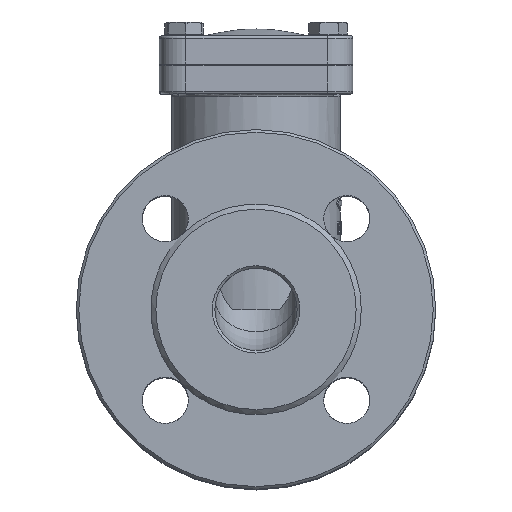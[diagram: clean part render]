
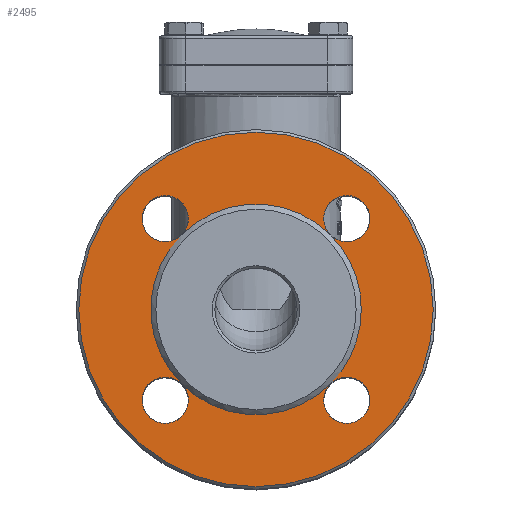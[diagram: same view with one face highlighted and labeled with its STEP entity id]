
A CAD part, top view. The second image highlights one B-rep face of the part: STEP entity #2495.
In plain terms, the highlighted planar face has unit normal (0, 0, 1).
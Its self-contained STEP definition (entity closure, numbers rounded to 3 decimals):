
#2495=ADVANCED_FACE('',(#7172,#7174,#7176,#7178,#7180,#7182),#7184,.T.);
#7172=FACE_BOUND('',#7173,.T.);
#7173=EDGE_LOOP('',(#9032));
#7174=FACE_BOUND('',#7175,.T.);
#7175=EDGE_LOOP('',(#9033,#9034));
#7176=FACE_BOUND('',#7177,.T.);
#7177=EDGE_LOOP('',(#9035,#9036,#9037,#9038));
#7178=FACE_BOUND('',#7179,.T.);
#7179=EDGE_LOOP('',(#9039,#9040));
#7180=FACE_BOUND('',#7181,.T.);
#7181=EDGE_LOOP('',(#9041,#9042));
#7182=FACE_BOUND('',#7183,.T.);
#7183=EDGE_LOOP('',(#9043));
#7184=PLANE('',#7185);
#7185=AXIS2_PLACEMENT_3D('',#7186,#7187,#7188);
#7186=CARTESIAN_POINT('',(0.,0.,87.948));
#7187=DIRECTION('',(0.,0.,1.));
#7188=DIRECTION('',(1.,0.,0.));
#9032=ORIENTED_EDGE('',*,*,#9944,.F.);
#9033=ORIENTED_EDGE('',*,*,#9939,.T.);
#9034=ORIENTED_EDGE('',*,*,#9940,.T.);
#9035=ORIENTED_EDGE('',*,*,#9945,.F.);
#9036=ORIENTED_EDGE('',*,*,#9946,.F.);
#9037=ORIENTED_EDGE('',*,*,#9947,.F.);
#9038=ORIENTED_EDGE('',*,*,#9948,.F.);
#9039=ORIENTED_EDGE('',*,*,#9937,.T.);
#9040=ORIENTED_EDGE('',*,*,#9938,.T.);
#9041=ORIENTED_EDGE('',*,*,#9935,.T.);
#9042=ORIENTED_EDGE('',*,*,#9936,.T.);
#9043=ORIENTED_EDGE('',*,*,#9934,.T.);
#9934=EDGE_CURVE('',#11355,#11355,#11356,.T.);
#9935=EDGE_CURVE('',#11357,#11358,#11359,.T.);
#9936=EDGE_CURVE('',#11358,#11357,#11360,.T.);
#9937=EDGE_CURVE('',#11361,#11362,#11363,.T.);
#9938=EDGE_CURVE('',#11362,#11361,#11364,.T.);
#9939=EDGE_CURVE('',#11365,#11366,#11367,.T.);
#9940=EDGE_CURVE('',#11366,#11365,#11368,.T.);
#9944=EDGE_CURVE('',#11375,#11375,#11376,.T.);
#9945=EDGE_CURVE('',#11357,#11361,#11377,.T.);
#9946=EDGE_CURVE('',#11378,#11357,#11379,.T.);
#9947=EDGE_CURVE('',#11365,#11378,#11380,.T.);
#9948=EDGE_CURVE('',#11361,#11365,#11381,.T.);
#11355=VERTEX_POINT('',#21068);
#11356=CIRCLE('',#21069,9.);
#11357=VERTEX_POINT('',#21073);
#11358=VERTEX_POINT('',#21074);
#11359=CIRCLE('',#21075,9.);
#11360=CIRCLE('',#21079,9.);
#11361=VERTEX_POINT('',#21083);
#11362=VERTEX_POINT('',#21084);
#11363=CIRCLE('',#21085,9.);
#11364=CIRCLE('',#21089,9.);
#11365=VERTEX_POINT('',#21093);
#11366=VERTEX_POINT('',#21094);
#11367=CIRCLE('',#21095,9.);
#11368=CIRCLE('',#21099,9.);
#11375=VERTEX_POINT('',#21118);
#11376=CIRCLE('',#21119,69.);
#11377=CIRCLE('',#21123,41.);
#11378=VERTEX_POINT('',#21127);
#11379=CIRCLE('',#21128,41.);
#11380=CIRCLE('',#21132,41.);
#11381=CIRCLE('',#21136,41.);
#21068=CARTESIAN_POINT('',(44.355,35.355,87.948));
#21069=AXIS2_PLACEMENT_3D('',#21070,#21071,#21072);
#21070=CARTESIAN_POINT('',(35.355,35.355,87.948));
#21071=DIRECTION('',(0.,0.,-1.));
#21072=DIRECTION('',(-0.707,-0.707,0.));
#21073=CARTESIAN_POINT('',(-28.991,28.991,87.948));
#21074=CARTESIAN_POINT('',(-26.355,35.355,87.948));
#21075=AXIS2_PLACEMENT_3D('',#21076,#21077,#21078);
#21076=CARTESIAN_POINT('',(-35.355,35.355,87.948));
#21077=DIRECTION('',(0.,0.,-1.));
#21078=DIRECTION('',(0.707,-0.707,0.));
#21079=AXIS2_PLACEMENT_3D('',#21080,#21081,#21082);
#21080=CARTESIAN_POINT('',(-35.355,35.355,87.948));
#21081=DIRECTION('',(0.,0.,-1.));
#21082=DIRECTION('',(1.,0.,0.));
#21083=CARTESIAN_POINT('',(-28.991,-28.991,87.948));
#21084=CARTESIAN_POINT('',(-26.355,-35.355,87.948));
#21085=AXIS2_PLACEMENT_3D('',#21086,#21087,#21088);
#21086=CARTESIAN_POINT('',(-35.355,-35.355,87.948));
#21087=DIRECTION('',(0.,0.,-1.));
#21088=DIRECTION('',(0.707,0.707,0.));
#21089=AXIS2_PLACEMENT_3D('',#21090,#21091,#21092);
#21090=CARTESIAN_POINT('',(-35.355,-35.355,87.948));
#21091=DIRECTION('',(0.,0.,-1.));
#21092=DIRECTION('',(1.,0.,0.));
#21093=CARTESIAN_POINT('',(28.991,-28.991,87.948));
#21094=CARTESIAN_POINT('',(44.355,-35.355,87.948));
#21095=AXIS2_PLACEMENT_3D('',#21096,#21097,#21098);
#21096=CARTESIAN_POINT('',(35.355,-35.355,87.948));
#21097=DIRECTION('',(0.,0.,-1.));
#21098=DIRECTION('',(-0.707,0.707,0.));
#21099=AXIS2_PLACEMENT_3D('',#21100,#21101,#21102);
#21100=CARTESIAN_POINT('',(35.355,-35.355,87.948));
#21101=DIRECTION('',(0.,0.,-1.));
#21102=DIRECTION('',(1.,0.,0.));
#21118=CARTESIAN_POINT('',(69.,0.,87.948));
#21119=AXIS2_PLACEMENT_3D('',#21120,#21121,#21122);
#21120=CARTESIAN_POINT('',(0.,0.,87.948));
#21121=DIRECTION('',(0.,0.,-1.));
#21122=DIRECTION('',(1.,0.,0.));
#21123=AXIS2_PLACEMENT_3D('',#21124,#21125,#21126);
#21124=CARTESIAN_POINT('',(0.,0.,87.948));
#21125=DIRECTION('',(0.,0.,1.));
#21126=DIRECTION('',(-0.707,0.707,0.));
#21127=CARTESIAN_POINT('',(41.,0.,87.948));
#21128=AXIS2_PLACEMENT_3D('',#21129,#21130,#21131);
#21129=CARTESIAN_POINT('',(0.,0.,87.948));
#21130=DIRECTION('',(0.,0.,1.));
#21131=DIRECTION('',(1.,0.,0.));
#21132=AXIS2_PLACEMENT_3D('',#21133,#21134,#21135);
#21133=CARTESIAN_POINT('',(0.,0.,87.948));
#21134=DIRECTION('',(0.,0.,1.));
#21135=DIRECTION('',(0.707,-0.707,0.));
#21136=AXIS2_PLACEMENT_3D('',#21137,#21138,#21139);
#21137=CARTESIAN_POINT('',(0.,0.,87.948));
#21138=DIRECTION('',(0.,0.,1.));
#21139=DIRECTION('',(-0.707,-0.707,0.));
